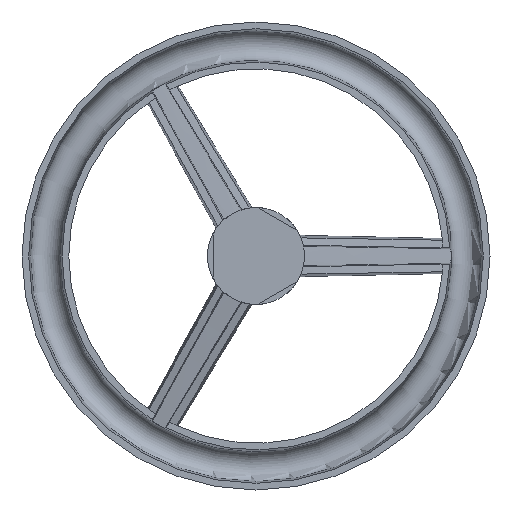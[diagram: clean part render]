
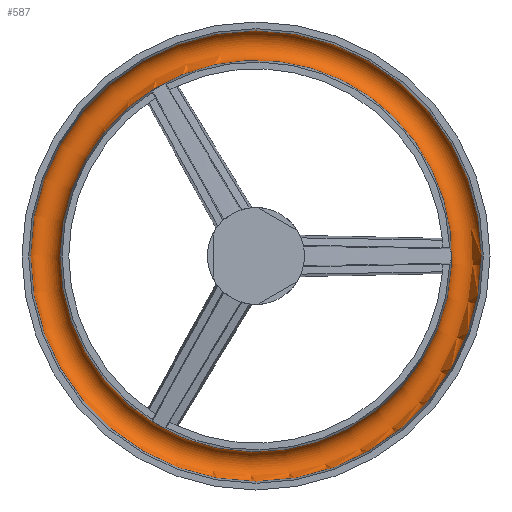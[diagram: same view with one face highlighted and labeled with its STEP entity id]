
A CAD part, front view. The second image highlights one B-rep face of the part: STEP entity #587.
In plain terms, the highlighted toroidal (fillet/blend) face has major radius 126 mm and minor radius 8.987 mm.
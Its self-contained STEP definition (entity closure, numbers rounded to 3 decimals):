
#587 = ADVANCED_FACE ( 'NONE', ( #1757, #1763 ), #1761, .F. ) ;
#1414 = ORIENTED_EDGE ( 'NONE', *, *, #6320, .F. ) ;
#1415 = ORIENTED_EDGE ( 'NONE', *, *, #6468, .T. ) ;
#1757 = FACE_OUTER_BOUND ( 'NONE', #5117, .T. ) ;
#1761 = TOROIDAL_SURFACE ( 'NONE', #6598, 126., 8.987 ) ;
#1763 = FACE_OUTER_BOUND ( 'NONE', #6267, .T. ) ;
#1939 = CIRCLE ( 'NONE', #6580, 117.047 ) ;
#2691 = DIRECTION ( 'NONE',  ( -0.866, 0., 0.5 ) ) ;
#2693 = CARTESIAN_POINT ( 'NONE',  ( -69.688, 29.635, 24.73 ) ) ;
#2700 = DIRECTION ( 'NONE',  ( 0., -1., 0. ) ) ;
#3567 = CARTESIAN_POINT ( 'NONE',  ( -69.688, 30.418, 24.73 ) ) ;
#3568 = DIRECTION ( 'NONE',  ( 0., -1., 0. ) ) ;
#3569 = DIRECTION ( 'NONE',  ( -0.866, 0., 0.5 ) ) ;
#5017 = CIRCLE ( 'NONE', #6519, 134.953 ) ;
#5071 = VERTEX_POINT ( 'NONE', #5971 ) ;
#5073 = VERTEX_POINT ( 'NONE', #5973 ) ;
#5117 = EDGE_LOOP ( 'NONE', ( #1415 ) ) ;
#5818 = CARTESIAN_POINT ( 'NONE',  ( -69.688, 30.418, 24.73 ) ) ;
#5819 = DIRECTION ( 'NONE',  ( 0., -1., 0. ) ) ;
#5820 = DIRECTION ( 'NONE',  ( -0.866, 0., 0.5 ) ) ;
#5971 = CARTESIAN_POINT ( 'NONE',  ( -171.054, 30.418, 83.253 ) ) ;
#5973 = CARTESIAN_POINT ( 'NONE',  ( -186.561, 30.418, 92.206 ) ) ;
#6267 = EDGE_LOOP ( 'NONE', ( #1414 ) ) ;
#6320 = EDGE_CURVE ( 'NONE', #5071, #5071, #1939, .T. ) ;
#6468 = EDGE_CURVE ( 'NONE', #5073, #5073, #5017, .T. ) ;
#6519 = AXIS2_PLACEMENT_3D ( 'NONE', #5818, #5819, #5820 ) ;
#6580 = AXIS2_PLACEMENT_3D ( 'NONE', #3567, #3568, #3569 ) ;
#6598 = AXIS2_PLACEMENT_3D ( 'NONE', #2693, #2700, #2691 ) ;
